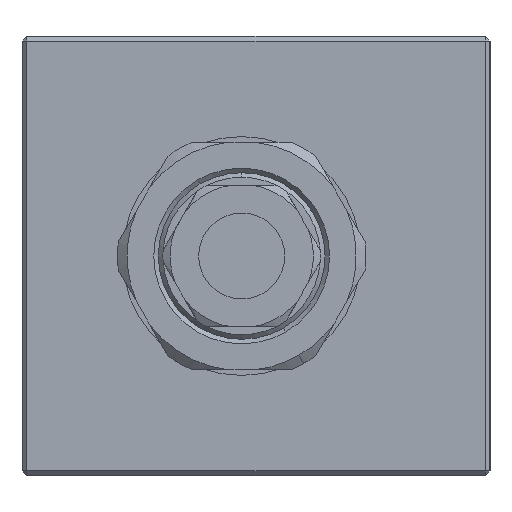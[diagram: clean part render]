
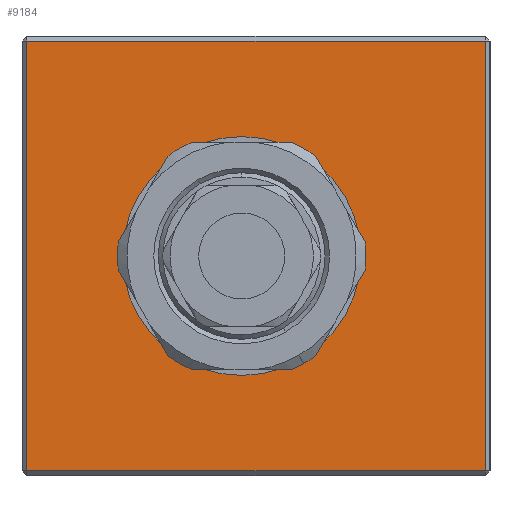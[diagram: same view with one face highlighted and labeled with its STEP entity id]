
A CAD part, left-side view. The second image highlights one B-rep face of the part: STEP entity #9184.
In plain terms, the highlighted planar face has unit normal (-1, 0, 0).
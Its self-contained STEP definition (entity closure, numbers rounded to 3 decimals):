
#67 = DIRECTION ( 'NONE',  ( 1., 0., 0. ) ) ;
#267 = EDGE_LOOP ( 'NONE', ( #3148, #4132 ) ) ;
#333 = DIRECTION ( 'NONE',  ( 0., 0., -1. ) ) ;
#335 = EDGE_CURVE ( 'NONE', #11614, #9312, #8659, .T. ) ;
#777 = CARTESIAN_POINT ( 'NONE',  ( -9.6, 0., 12.5 ) ) ;
#816 = CARTESIAN_POINT ( 'NONE',  ( -9.6, -25.5, 23. ) ) ;
#906 = DIRECTION ( 'NONE',  ( 0., -1., 0. ) ) ;
#1127 = DIRECTION ( 'NONE',  ( 0., 0., 1. ) ) ;
#1639 = VECTOR ( 'NONE', #13329, 1000. ) ;
#1669 = CARTESIAN_POINT ( 'NONE',  ( -9.6, 0., -12.5 ) ) ;
#1832 = VECTOR ( 'NONE', #906, 1000. ) ;
#2380 = ORIENTED_EDGE ( 'NONE', *, *, #14298, .T. ) ;
#2593 = CARTESIAN_POINT ( 'NONE',  ( -9.6, 23., 23. ) ) ;
#2600 = ORIENTED_EDGE ( 'NONE', *, *, #15068, .T. ) ;
#2904 = CARTESIAN_POINT ( 'NONE',  ( -9.6, 0., 0. ) ) ;
#3001 = ORIENTED_EDGE ( 'NONE', *, *, #3611, .T. ) ;
#3148 = ORIENTED_EDGE ( 'NONE', *, *, #335, .T. ) ;
#3611 = EDGE_CURVE ( 'NONE', #11755, #9774, #13623, .T. ) ;
#4132 = ORIENTED_EDGE ( 'NONE', *, *, #11004, .T. ) ;
#4772 = PLANE ( 'NONE',  #7110 ) ;
#5015 = CARTESIAN_POINT ( 'NONE',  ( -9.6, 23., 22.5 ) ) ;
#5204 = CARTESIAN_POINT ( 'NONE',  ( -9.6, 0., 0. ) ) ;
#5267 = ORIENTED_EDGE ( 'NONE', *, *, #6602, .T. ) ;
#6220 = CARTESIAN_POINT ( 'NONE',  ( -9.6, 22.5, 22.5 ) ) ;
#6600 = DIRECTION ( 'NONE',  ( 0., 0., -1. ) ) ;
#6602 = EDGE_CURVE ( 'NONE', #8121, #11755, #7126, .T. ) ;
#7110 = AXIS2_PLACEMENT_3D ( 'NONE', #2593, #67, #7224 ) ;
#7126 = LINE ( 'NONE', #9662, #1639 ) ;
#7224 = DIRECTION ( 'NONE',  ( 0., 0., -1. ) ) ;
#7288 = FACE_BOUND ( 'NONE', #267, .T. ) ;
#7434 = CARTESIAN_POINT ( 'NONE',  ( -9.6, 22.5, -22.5 ) ) ;
#7920 = DIRECTION ( 'NONE',  ( 1., 0., 0. ) ) ;
#8121 = VERTEX_POINT ( 'NONE', #6220 ) ;
#8463 = CIRCLE ( 'NONE', #13550, 12.5 ) ;
#8636 = FACE_OUTER_BOUND ( 'NONE', #9836, .T. ) ;
#8659 = CIRCLE ( 'NONE', #9165, 12.5 ) ;
#9100 = VECTOR ( 'NONE', #1127, 1000. ) ;
#9165 = AXIS2_PLACEMENT_3D ( 'NONE', #5204, #12349, #333 ) ;
#9184 = ADVANCED_FACE ( 'NONE', ( #8636, #7288 ), #4772, .F. ) ;
#9312 = VERTEX_POINT ( 'NONE', #777 ) ;
#9662 = CARTESIAN_POINT ( 'NONE',  ( -9.6, 22.5, 23. ) ) ;
#9774 = VERTEX_POINT ( 'NONE', #10322 ) ;
#9836 = EDGE_LOOP ( 'NONE', ( #5267, #3001, #2600, #2380 ) ) ;
#9845 = DIRECTION ( 'NONE',  ( 0., 1., 0. ) ) ;
#10322 = CARTESIAN_POINT ( 'NONE',  ( -9.6, -25.5, -22.5 ) ) ;
#10347 = VECTOR ( 'NONE', #9845, 1000. ) ;
#10622 = CARTESIAN_POINT ( 'NONE',  ( -9.6, -25.5, 22.5 ) ) ;
#11004 = EDGE_CURVE ( 'NONE', #9312, #11614, #8463, .T. ) ;
#11067 = LINE ( 'NONE', #5015, #10347 ) ;
#11614 = VERTEX_POINT ( 'NONE', #1669 ) ;
#11755 = VERTEX_POINT ( 'NONE', #7434 ) ;
#12349 = DIRECTION ( 'NONE',  ( 1., 0., 0. ) ) ;
#12827 = LINE ( 'NONE', #816, #9100 ) ;
#13329 = DIRECTION ( 'NONE',  ( 0., 0., -1. ) ) ;
#13550 = AXIS2_PLACEMENT_3D ( 'NONE', #2904, #7920, #6600 ) ;
#13623 = LINE ( 'NONE', #15467, #1832 ) ;
#13899 = VERTEX_POINT ( 'NONE', #10622 ) ;
#14298 = EDGE_CURVE ( 'NONE', #13899, #8121, #11067, .T. ) ;
#15068 = EDGE_CURVE ( 'NONE', #9774, #13899, #12827, .T. ) ;
#15467 = CARTESIAN_POINT ( 'NONE',  ( -9.6, 23., -22.5 ) ) ;
